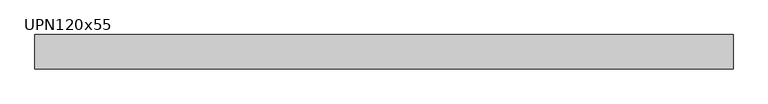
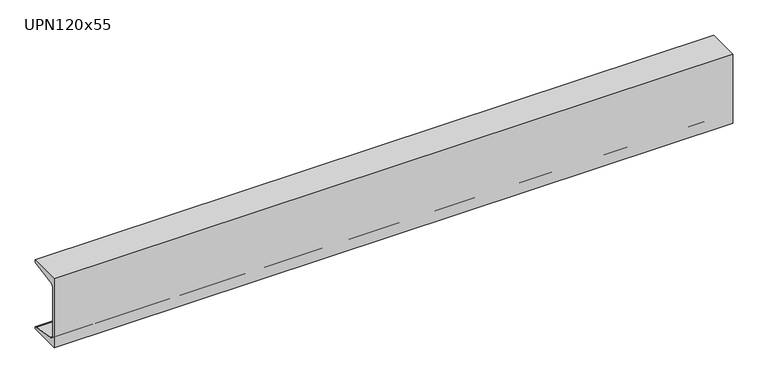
"""IFC4 building model written with IfcOpenShell, lengths in millimetres: beam geometry, M_MC Shapes : UPN120x55."""

from ifc_helpers import new_model, si_unit, point, frame, frame_2d, origin, place, context, project, spatial, polyline, circle_curve, trimmed, segment, composite_curve, outline, extrude, source, transform, mapped, element, save


def upn120x55_dd576345(model_context):
    return source(origin(), model_context, "Body", "SweptSolid", [
        extrude(outline(composite_curve([segment(polyline([(-10.9, 60.0), (44.1, 60.0), (44.1, 59.0253247)]), True, "CONTINUOUS"), segment(trimmed(circle_curve(frame_2d((40.15, 59.0253247)), 3.95), [point((44.1, 59.0253247))], [point((40.7993773, 55.1290689))], False, "CARTESIAN"), True, "CONTINUOUS"), segment(polyline([(40.7993773, 55.1290689), (0.2512455, 48.3710335)]), True, "CONTINUOUS"), segment(trimmed(circle_curve(frame_2d((1.55, 40.5785219)), 7.9), [point((0.2512455, 48.3710335))], [point((-6.35, 40.5785219))], True, "CARTESIAN"), True, "CONTINUOUS"), segment(polyline([(-6.35, 40.5785219), (-6.35, -40.5785219)]), True, "CONTINUOUS"), segment(trimmed(circle_curve(frame_2d((1.55, -40.5785219)), 7.9), [point((-6.35, -40.5785219))], [point((0.2512455, -48.3710335))], True, "CARTESIAN"), True, "CONTINUOUS"), segment(polyline([(0.2512455, -48.3710335), (40.7993773, -55.1290689)]), True, "CONTINUOUS"), segment(trimmed(circle_curve(frame_2d((40.15, -59.0253247)), 3.95), [point((40.7993773, -55.1290689))], [point((44.1, -59.0253247))], False, "CARTESIAN"), True, "CONTINUOUS"), segment(polyline([(44.1, -59.0253247), (44.1, -60.0), (-10.9, -60.0), (-10.9, 60.0)]), True, "CONTINUOUS")], self_intersect=False)), frame((-558.9, 0.0, 0.0), z_axis=(1.0, 0.0, 0.0), x_axis=(0.0, 1.0, 0.0)), (0.0, 0.0, 1.0), 1117.8),
    ])


if __name__ == "__main__":
    model = new_model("IFC4")
    model_context = context("Model", 3, world=origin())
    ifc_project = project(units=[si_unit("LENGTHUNIT", "METRE", prefix="MILLI")], contexts=[model_context])
    site = spatial("IfcSite", under=ifc_project)
    building = spatial("IfcBuilding", under=site)
    placement = place(None, origin())
    upn120x55_shape = upn120x55_dd576345(model_context)
    element("IfcBeam", 1, ObjectType="M_MC Shapes : UPN120x55", at=placement, inside=building, context=model_context, shape_type="MappedRepresentation", body=[
        mapped(upn120x55_shape, transform((0.0, 0.0, 0.0), x_axis=(1.0, 0.0, 0.0), y_axis=(0.0, 1.0, 0.0), z_axis=(0.0, 0.0, 1.0))),
    ])
    save(model, "model.ifc")
